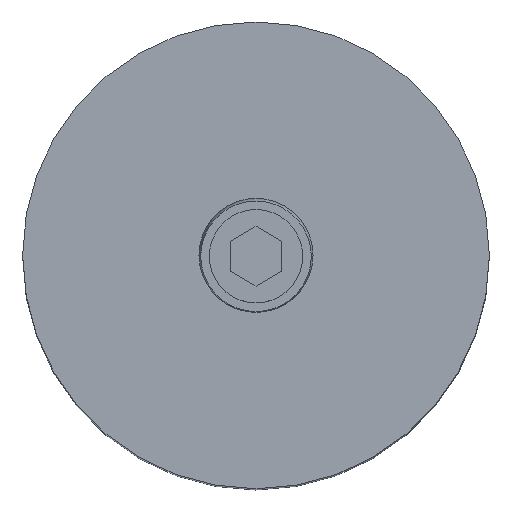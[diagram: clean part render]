
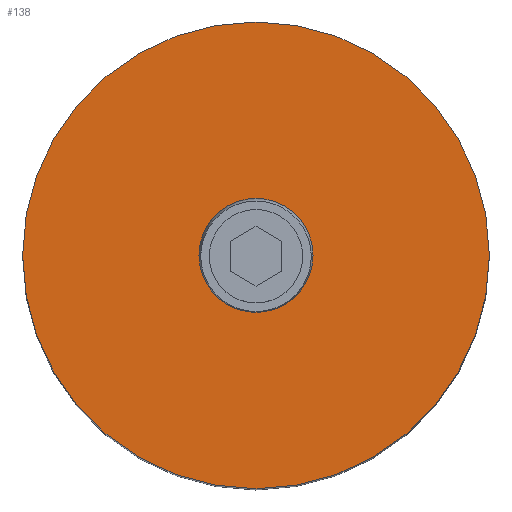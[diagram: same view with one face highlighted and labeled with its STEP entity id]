
A CAD part, top view. The second image highlights one B-rep face of the part: STEP entity #138.
In plain terms, the highlighted planar face has unit normal (0, 0, 1).
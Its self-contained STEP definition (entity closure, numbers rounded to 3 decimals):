
#107=PLANE('',#636);
#122=FACE_BOUND('',#215,.T.);
#123=FACE_BOUND('',#216,.T.);
#138=ADVANCED_FACE('',(#122,#123),#107,.T.);
#215=EDGE_LOOP('',(#297,#298));
#216=EDGE_LOOP('',(#299,#300));
#255=CIRCLE('',#628,45.);
#258=CIRCLE('',#632,45.);
#259=CIRCLE('',#634,11.);
#260=CIRCLE('',#635,11.);
#297=ORIENTED_EDGE('',*,*,#484,.T.);
#298=ORIENTED_EDGE('',*,*,#480,.T.);
#299=ORIENTED_EDGE('',*,*,#485,.F.);
#300=ORIENTED_EDGE('',*,*,#486,.F.);
#434=VERTEX_POINT('',#878);
#435=VERTEX_POINT('',#880);
#437=VERTEX_POINT('',#889);
#438=VERTEX_POINT('',#890);
#480=EDGE_CURVE('',#435,#434,#255,.T.);
#484=EDGE_CURVE('',#434,#435,#258,.T.);
#485=EDGE_CURVE('',#437,#438,#259,.T.);
#486=EDGE_CURVE('',#438,#437,#260,.T.);
#628=AXIS2_PLACEMENT_3D('',#879,#700,#701);
#632=AXIS2_PLACEMENT_3D('',#886,#709,#710);
#634=AXIS2_PLACEMENT_3D('',#888,#713,#714);
#635=AXIS2_PLACEMENT_3D('',#891,#715,#716);
#636=AXIS2_PLACEMENT_3D('',#892,#717,#718);
#700=DIRECTION('',(0.,0.,1.));
#701=DIRECTION('',(0.,1.,0.));
#709=DIRECTION('',(0.,0.,1.));
#710=DIRECTION('',(0.,-1.,0.));
#713=DIRECTION('',(0.,0.,1.));
#714=DIRECTION('',(0.,1.,0.));
#715=DIRECTION('',(0.,0.,1.));
#716=DIRECTION('',(0.,-1.,0.));
#717=DIRECTION('',(0.,0.,1.));
#718=DIRECTION('',(0.,-1.,0.));
#878=CARTESIAN_POINT('',(45.,0.,140.));
#879=CARTESIAN_POINT('',(0.,0.,140.));
#880=CARTESIAN_POINT('',(-45.,0.,140.));
#886=CARTESIAN_POINT('',(0.,0.,140.));
#888=CARTESIAN_POINT('',(0.,0.,140.));
#889=CARTESIAN_POINT('',(-11.,0.,140.));
#890=CARTESIAN_POINT('',(11.,0.,140.));
#891=CARTESIAN_POINT('',(0.,0.,140.));
#892=CARTESIAN_POINT('',(0.,0.,140.));
